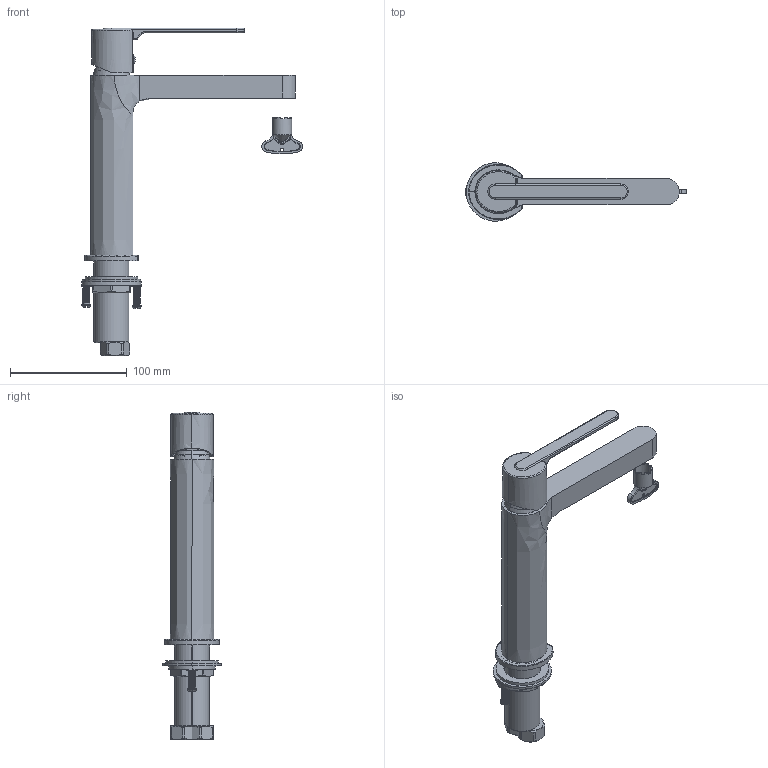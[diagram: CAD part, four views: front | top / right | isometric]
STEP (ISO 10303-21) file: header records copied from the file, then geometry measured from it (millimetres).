
FILE_DESCRIPTION((''),'2;1');
FILE_NAME('1153900_ASM_ASM','2022-11-30T',('Administrator'),(''),'PRO/ENGINEER BY PARAMETRIC TECHNOLOGY CORPORATION, 2015240','PRO/ENGINEER BY PARAMETRIC TECHNOLOGY CORPORATION, 2015240','');
FILE_SCHEMA(('CONFIG_CONTROL_DESIGN'));
Products named in the file (28): 511539-0100_21; 60722641_3; 61319322_1; 61818900_2; 61325322_2; 511539-0300_3; 61110412_3; MANIFOLD_SOLID_BREP_18130; MANIFOLD_SOLID_BREP_49116; MANIFOLD_SOLID_BREP_71506; 65305741_2_ASM; MANIFOLD_SOLID_BREP_73343; MANIFOLD_SOLID_BREP_74783; 61710312_2_ASM; 61326499_13; 61625712_7; 61625242_3; 61201441_3; 61510042_2; 7609353-0100_28; 7609354-0200_31; 61105412_2; 60935400_ASM_5_ASM; 61100112_2; 61800800_1; 61107512_4; 1153900_ASM_31_ASM; 1153900_ASM_ASM
Assembly tree (31 placements, depth 4):
  1153900_ASM_ASM
    1153900_ASM_31_ASM
      511539-0100_21
      60722641_3
      61319322_1
      61818900_2
      61325322_2
      511539-0300_3
      61110412_3  x2
      65305741_2_ASM
        MANIFOLD_SOLID_BREP_18130
        MANIFOLD_SOLID_BREP_49116
        MANIFOLD_SOLID_BREP_71506
      61710312_2_ASM  x2
        MANIFOLD_SOLID_BREP_73343
        MANIFOLD_SOLID_BREP_74783
      61326499_13
      61625712_7
      61625242_3
      61201441_3
      61510042_2
      60935400_ASM_5_ASM
        7609353-0100_28
        7609354-0200_31
        61105412_2  x2
      61100112_2
      61800800_1
      61107512_4  x2
Bounding box: 188.72 x 49.99 x 280.21 mm (x, y, z)
Volume: 184748.2 mm3; surface area: 161210.8 mm2
Topology: 28 solids, 54 shells, 3400 faces, 9124 edges, 6102 vertices
Faces by surface type: plane 1831, cylinder 1146, cone 153, bspline 139, torus 104, extrusion 17, sphere 6, revolution 4
Entity records: 123259 total; most frequent: CARTESIAN_POINT 43931, ORIENTED_EDGE 16714, DIRECTION 15584, EDGE_CURVE 8402, VERTEX_POINT 5613, AXIS2_PLACEMENT_3D 5289, VECTOR 5004, LINE 4989
